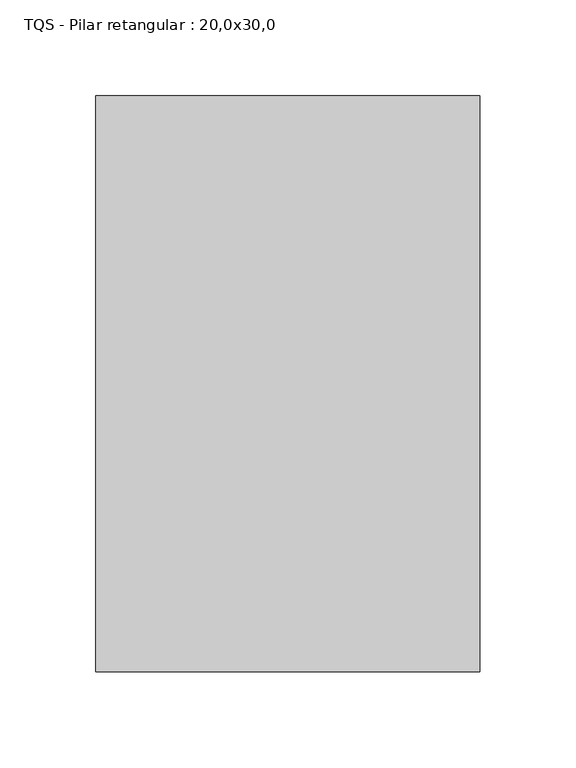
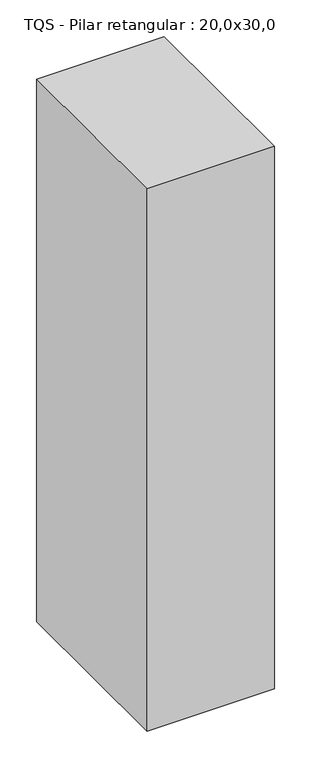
"""IFC4 building model written with IfcOpenShell, lengths in millimetres: column geometry, TQS - Pilar retangular : 20,0x30,0."""

from ifc_helpers import new_model, si_unit, origin, origin_with_axes, place, context, project, spatial, polyline, outline, extrude, source, transform, mapped, element, save


def tqs_pilar_retangular_20_0x30_0_43656a7f(model_context):
    return source(origin(), model_context, "Body", "SweptSolid", [
        extrude(outline(polyline([(100.0, 150.0), (100.0, -150.0), (-100.0, -150.0), (-100.0, 150.0), (100.0, 150.0)])), origin_with_axes(), (0.0, 0.0, 1.0), 900.0),
    ])


if __name__ == "__main__":
    model = new_model("IFC4")
    model_context = context("Model", 3, world=origin())
    ifc_project = project(units=[si_unit("LENGTHUNIT", "METRE", prefix="MILLI")], contexts=[model_context])
    site = spatial("IfcSite", under=ifc_project)
    building = spatial("IfcBuilding", under=site)
    placement = place(None, origin())
    tqs_pilar_retangular_20_0x30_0_shape = tqs_pilar_retangular_20_0x30_0_43656a7f(model_context)
    element("IfcColumn", 1, ObjectType="TQS - Pilar retangular : 20,0x30,0", at=placement, inside=building, context=model_context, shape_type="MappedRepresentation", body=[
        mapped(tqs_pilar_retangular_20_0x30_0_shape, transform((0.0, 0.0, 0.0), x_axis=(1.0, 0.0, 0.0), y_axis=(0.0, 1.0, 0.0), z_axis=(0.0, 0.0, 1.0))),
    ])
    save(model, "model.ifc")
